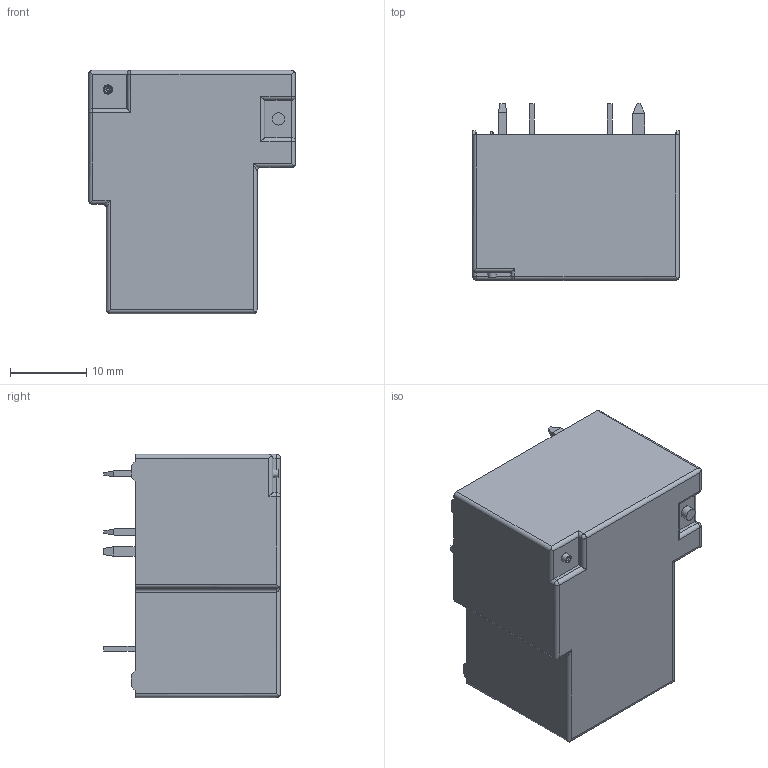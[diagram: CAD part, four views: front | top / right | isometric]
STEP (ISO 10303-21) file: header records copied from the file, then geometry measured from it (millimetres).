
FILE_DESCRIPTION(('FreeCAD Model'),'2;1');
FILE_NAME('C:/Users/Jane Koetz/Desktop/J1R.stp','2020-05-21T11:04:01',( 'VKV'),('Metaltex'),'Open CASCADE STEP processor 7.3','FreeCAD', 'Unknown');
FILE_SCHEMA(('AUTOMOTIVE_DESIGN { 1 0 10303 214 1 1 1 1 }'));
Length unit declared in the file: millimetre
Products named in the file (1): J1R
Bounding box: 27 x 23.1 x 31.8 mm (x, y, z)
Volume: 3417.9 mm3; surface area: 7460.4 mm2
Topology: 7 solids, 7 shells, 499 faces, 3696 edges, 10583 vertices
Faces by surface type: plane 294, cylinder 166, torus 16, bspline 11, sphere 8, cone 4
Full cylindrical faces by diameter (mm): 1.6 x1, 3.2 x1
Entity records: 46919 total; most frequent: CARTESIAN_POINT 15105, DIRECTION 5619, LINE 2685, VECTOR 2685, GEOMETRIC_CURVE_SET 2463, ORIENTED_EDGE 2456, TRIMMED_CURVE 2456, AXIS2_PLACEMENT_3D 1467
